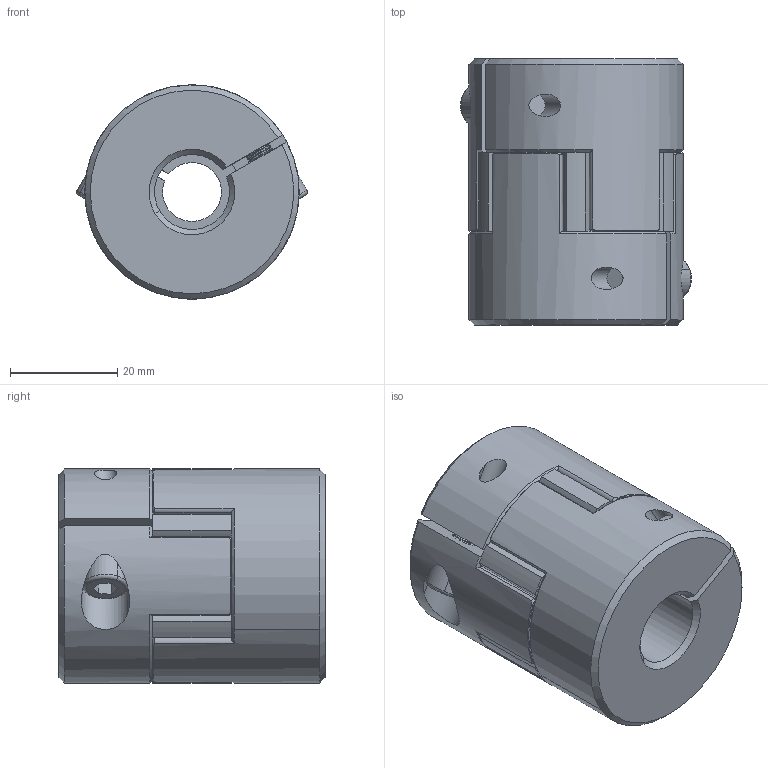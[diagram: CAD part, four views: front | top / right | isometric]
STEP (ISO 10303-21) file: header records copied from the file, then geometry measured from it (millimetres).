
FILE_DESCRIPTION (( 'STEP AP203' ), '1' );
FILE_NAME ('LF-B-D40L50-11-14.STEP', '2021-10-25T02:41:46', ( '' ), ( '' ), 'SwSTEP 2.0', 'SolidWorks 2018', '' );
FILE_SCHEMA (( 'CONFIG_CONTROL_DESIGN' ));
Length unit declared in the file: millimetre
Products named in the file (1): LF-B-D40L50-11-14
Bounding box: 43.11 x 49.7 x 40 mm (x, y, z)
Volume: 52540.4 mm3; surface area: 14658.5 mm2
Topology: 1 solids, 7 shells, 471 faces, 1117 edges, 662 vertices
Faces by surface type: cone 170, cylinder 169, plane 128, torus 4
Entity records: 13972 total; most frequent: CARTESIAN_POINT 2895, DIRECTION 2509, ORIENTED_EDGE 2226, EDGE_CURVE 1113, AXIS2_PLACEMENT_3D 1040, VERTEX_POINT 662, CIRCLE 568, EDGE_LOOP 487
